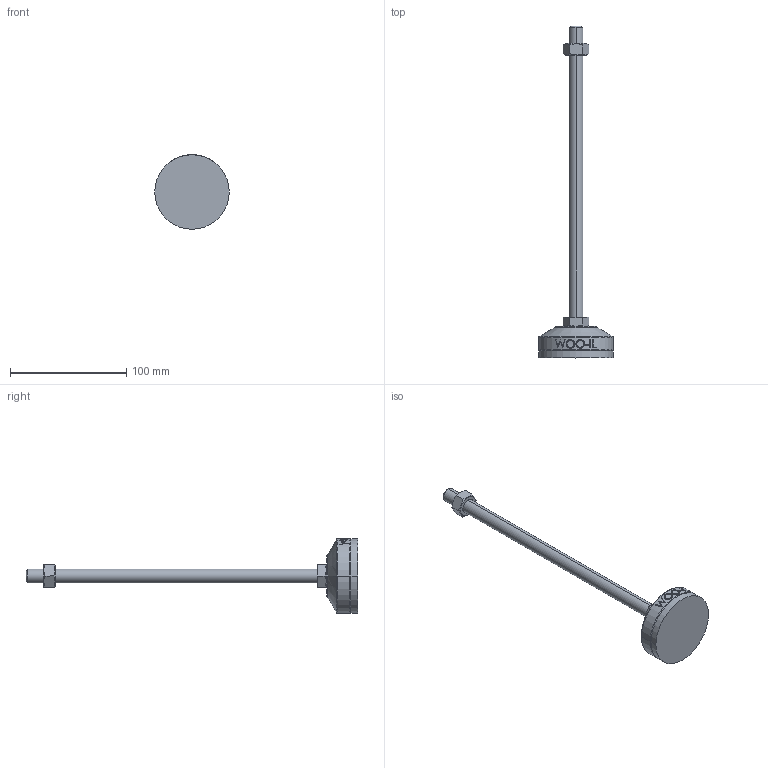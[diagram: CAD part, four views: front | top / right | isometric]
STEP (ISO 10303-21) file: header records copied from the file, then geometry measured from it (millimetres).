
FILE_DESCRIPTION (( 'STEP AP214' ), '1' );
FILE_NAME ('MFZR64-M12-250.step', '2021-03-29T06:55:16', ( '' ), ( '' ), 'SwSTEP 2.0', 'SolidWorks 2019', '' );
FILE_SCHEMA (( 'AUTOMOTIVE_DESIGN' ));
Length unit declared in the file: millimetre
Products named in the file (2): MFZR64-M12-250
Bounding box: 64 x 285 x 64 mm (x, y, z)
Volume: 107888 mm3; surface area: 28746.6 mm2
Topology: 4 solids, 4 shells, 103 faces, 235 edges, 150 vertices
Faces by surface type: plane 49, cylinder 18, bspline 16, cone 14, torus 6
Entity records: 4435 total; most frequent: CARTESIAN_POINT 2162, ORIENTED_EDGE 470, DIRECTION 417, EDGE_CURVE 235, AXIS2_PLACEMENT_3D 159, VERTEX_POINT 150, EDGE_LOOP 115, FACE_OUTER_BOUND 103
